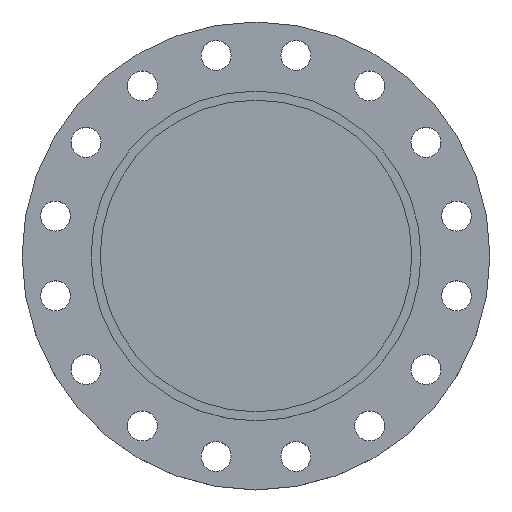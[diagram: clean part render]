
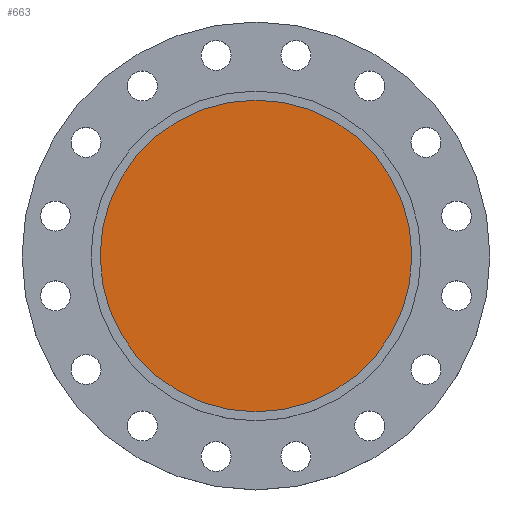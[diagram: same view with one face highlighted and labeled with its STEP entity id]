
A CAD part, top view. The second image highlights one B-rep face of the part: STEP entity #663.
In plain terms, the highlighted planar face has unit normal (0, 0, 1).
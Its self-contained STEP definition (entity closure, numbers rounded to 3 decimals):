
#292 = DIRECTION ( 'NONE',  ( 1., 0., 0. ) ) ;
#296 = DIRECTION ( 'NONE',  ( 0., 0., 1. ) ) ;
#297 = CARTESIAN_POINT ( 'NONE',  ( 171.5, 0., -5. ) ) ;
#301 = PLANE ( 'NONE',  #1440 ) ;
#303 = FACE_OUTER_BOUND ( 'NONE', #1054, .T. ) ;
#419 = DIRECTION ( 'NONE',  ( -1., 0., 0. ) ) ;
#420 = DIRECTION ( 'NONE',  ( 0., 0., -1. ) ) ;
#430 = CARTESIAN_POINT ( 'NONE',  ( 0., 0., -5. ) ) ;
#567 = CIRCLE ( 'NONE', #1358, 171.5 ) ;
#663 = ADVANCED_FACE ( 'NONE', ( #303 ), #301, .T. ) ;
#1044 = VERTEX_POINT ( 'NONE', #1463 ) ;
#1054 = EDGE_LOOP ( 'NONE', ( #1553, #1555 ) ) ;
#1154 = CARTESIAN_POINT ( 'NONE',  ( -171.5, 0., -5. ) ) ;
#1202 = VERTEX_POINT ( 'NONE', #1154 ) ;
#1238 = DIRECTION ( 'NONE',  ( -1., 0., 0. ) ) ;
#1254 = DIRECTION ( 'NONE',  ( 0., 0., -1. ) ) ;
#1303 = CARTESIAN_POINT ( 'NONE',  ( 0., 0., -5. ) ) ;
#1358 = AXIS2_PLACEMENT_3D ( 'NONE', #430, #420, #419 ) ;
#1440 = AXIS2_PLACEMENT_3D ( 'NONE', #297, #296, #292 ) ;
#1445 = CIRCLE ( 'NONE', #1529, 171.5 ) ;
#1463 = CARTESIAN_POINT ( 'NONE',  ( 171.5, 0., -5. ) ) ;
#1515 = EDGE_CURVE ( 'NONE', #1202, #1044, #567, .T. ) ;
#1529 = AXIS2_PLACEMENT_3D ( 'NONE', #1303, #1254, #1238 ) ;
#1553 = ORIENTED_EDGE ( 'NONE', *, *, #1515, .F. ) ;
#1555 = ORIENTED_EDGE ( 'NONE', *, *, #1688, .F. ) ;
#1688 = EDGE_CURVE ( 'NONE', #1044, #1202, #1445, .T. ) ;
